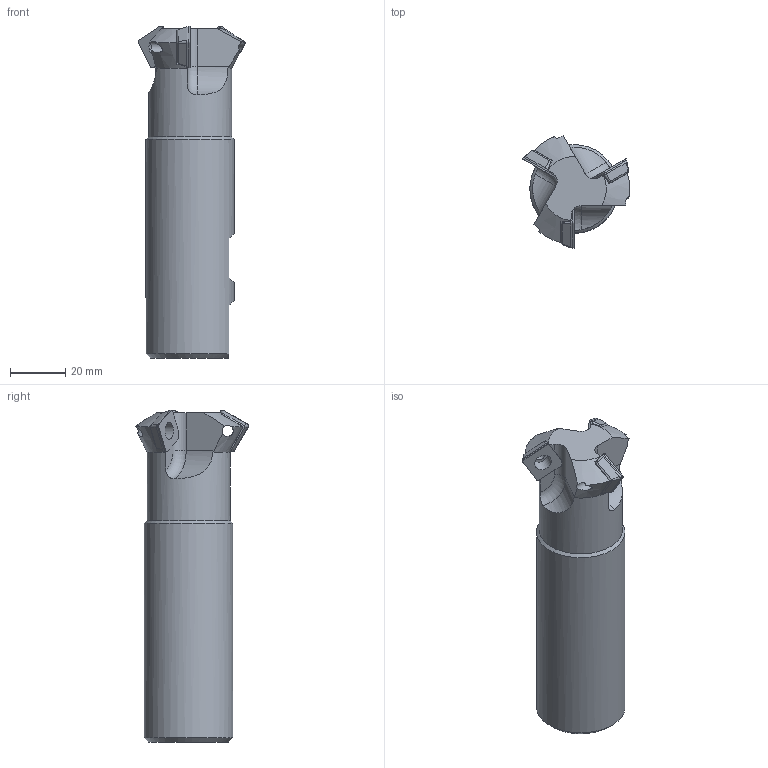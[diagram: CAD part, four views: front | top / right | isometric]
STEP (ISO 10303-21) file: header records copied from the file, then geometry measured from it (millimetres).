
FILE_DESCRIPTION(/* description */ (''),/* implementation_level */ '2;1');
FILE_NAME(/* name */ 'CE60-1125R-S32-HAAS.stp',/* time_stamp */ '2021-09-24T12:14:37+09:00',/* author */ (''),/* organization */ (''),/* preprocessor_version */ 'ST-DEVELOPER v11',/* originating_system */ 'SIEMENS UGS NX 6.0',/* authorisation */ '');
FILE_SCHEMA (('CONFIG_CONTROL_DESIGN'));
Length unit declared in the file: millimetre
Products named in the file (1): user434Awy1e
Bounding box: 38.85 x 40.9 x 120 mm (x, y, z)
Volume: 86190.6 mm3; surface area: 15043.3 mm2
Topology: 4 solids, 4 shells, 167 faces, 409 edges, 247 vertices
Faces by surface type: plane 88, bspline 48, cylinder 20, cone 8, torus 3
Full cylindrical faces by diameter (mm): 4 x3, 6.2 x3, 30 x1, 32 x1
Entity records: 4863 total; most frequent: CARTESIAN_POINT 1430, ORIENTED_EDGE 784, DIRECTION 565, EDGE_CURVE 392, VERTEX_POINT 240, LINE 191, VECTOR 191, AXIS2_PLACEMENT_3D 187
